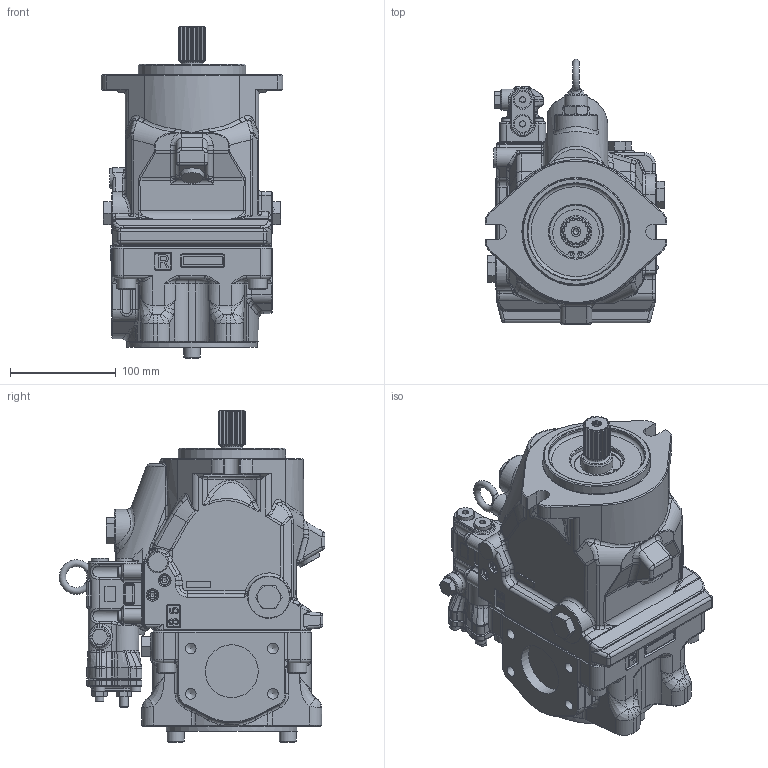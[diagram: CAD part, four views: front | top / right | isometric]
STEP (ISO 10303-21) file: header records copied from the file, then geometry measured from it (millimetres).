
FILE_DESCRIPTION(/* description */ (''),/* implementation_level */ '2;1');
FILE_NAME(/* name */ 'K3VLS65-1NLBB#-L#A.stp',/* time_stamp */ '2025-08-18T11:06:31+01:00',/* author */ ('jhatcher'),/* organization */ (''),/* preprocessor_version */ 'ST-DEVELOPER v20',/* originating_system */ 'Autodesk Inventor 2024',/* authorisation */ '');
FILE_SCHEMA (('AUTOMOTIVE_DESIGN { 1 0 10303 214 3 1 1 }'));
Products named in the file (1): K3VLS65-1NLBB#-L#A
Bounding box: 172 x 251.29 x 314 mm (x, y, z)
Volume: 5210461.2 mm3; surface area: 259223.5 mm2
Topology: 1 solids, 1 shells, 2773 faces, 6906 edges, 4197 vertices
Faces by surface type: plane 1196, bspline 569, cylinder 554, cone 314, torus 123, sphere 17
Full cylindrical faces by diameter (mm): 2.5 x2, 4 x2, 5.7 x1, 8 x2, 8.376 x8, 9.4 x3, 10 x8, 10.106 x4, 11 x8, 12 x3, 16 x4, 18 x6, 20 x5, 21 x1, 22 x1, 25 x1, 30 x1, 45 x1, 50 x2, 53 x1, 91 x1, 101.6 x1, 124 x1
Entity records: 103059 total; most frequent: CARTESIAN_POINT 38833, ORIENTED_EDGE 13620, DIRECTION 11822, EDGE_CURVE 6810, AXIS2_PLACEMENT_3D 4245, VERTEX_POINT 4197, LINE 3332, VECTOR 3332
